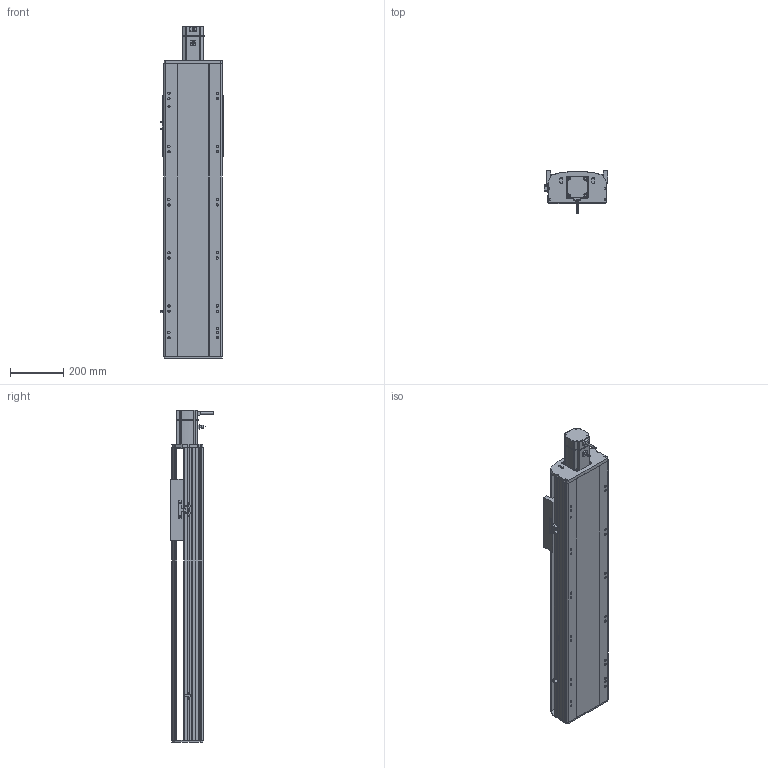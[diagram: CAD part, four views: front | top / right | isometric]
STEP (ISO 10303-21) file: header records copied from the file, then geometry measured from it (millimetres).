
FILE_DESCRIPTION (( 'STEP AP214' ), '1' );
FILE_NAME ('RTH22-XX-700-E-M75-C4.STEP', '2025-10-24T10:45:18', ( 'Microsoft' ), ( 'Microsoft' ), 'SwSTEP 2.0', 'SolidWorks 2018', '' );
FILE_SCHEMA (( 'AUTOMOTIVE_DESIGN' ));
Length unit declared in the file: millimetre
Products named in the file (9): N_OMRON EE-SX672 传感器^RTH22-XX-XX-E-M75-C4; N_RTH22-E-011菁釱^RTH22-XX-XX-E-M75-C4; N_750W萇儂^RTH22-XX-XX-E-M75-C4; N_RTH22-GY-013外置感应片^RTH22-XX-XX-E-M75-C4; N_RTH22-E-004-SFS25賑釱^RTH22-XX-XX-E-M75-C4; RTH22-XX-700-E-M75-C4; N_RTH22-E-007奻裔^RTH22-XX-XX-E-M75-C4; N_RTH22-GY-001耜裔^RTH22-XX-XX-E-M75-C4; N_RTH22-E-008萇儂啣^RTH22-XX-XX-E-M75-C4
Assembly tree (10 placements, depth 2):
  RTH22-XX-700-E-M75-C4
    N_RTH22-E-011菁釱^RTH22-XX-XX-E-M75-C4
    N_RTH22-GY-001耜裔^RTH22-XX-XX-E-M75-C4
    N_RTH22-E-008萇儂啣^RTH22-XX-XX-E-M75-C4
    N_RTH22-E-007奻裔^RTH22-XX-XX-E-M75-C4
    N_RTH22-GY-013外置感应片^RTH22-XX-XX-E-M75-C4
    N_RTH22-E-004-SFS25賑釱^RTH22-XX-XX-E-M75-C4
    N_750W萇儂^RTH22-XX-XX-E-M75-C4
    N_OMRON EE-SX672 传感器^RTH22-XX-XX-E-M75-C4  x3
Bounding box: 238.5 x 160.7 x 1249 mm (x, y, z)
Volume: 15917248.7 mm3; surface area: 1663463.4 mm2
Topology: 10 solids, 10 shells, 1523 faces, 4174 edges, 2699 vertices
Faces by surface type: plane 754, cylinder 436, bspline 279, cone 54
Entity records: 37889 total; most frequent: CARTESIAN_POINT 11913, ORIENTED_EDGE 5332, DIRECTION 4992, EDGE_CURVE 2666, VERTEX_POINT 1735, AXIS2_PLACEMENT_3D 1674, VECTOR 1644, LINE 1644
